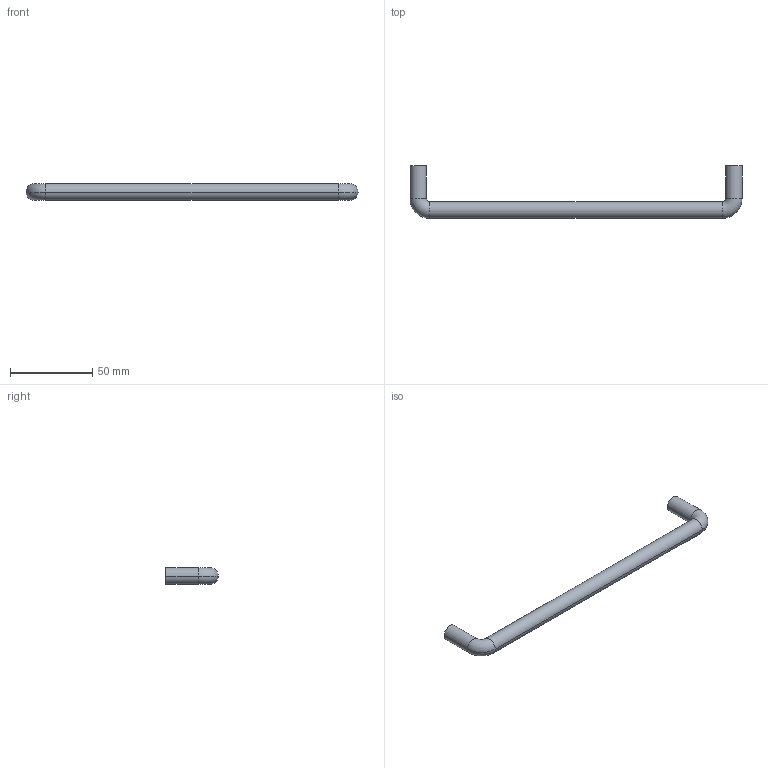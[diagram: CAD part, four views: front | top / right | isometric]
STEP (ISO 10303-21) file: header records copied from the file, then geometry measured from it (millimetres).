
FILE_DESCRIPTION( ( '' ), '1' );
FILE_NAME( 'C:/Documents and Settings/Sachin/Desktop/Sheet 10_1/stp/9070572.stp', '2013-10-22T08:31:09', ( '' ), ( '' ), ' ', ' ', ' ' );
FILE_SCHEMA( ( 'CONFIG_CONTROL_DESIGN' ) );
Length unit declared in the file: millimetre
Products named in the file (1): 1
Bounding box: 202 x 32 x 10 mm (x, y, z)
Volume: 18672.9 mm3; surface area: 7872.6 mm2
Topology: 1 solids, 1 shells, 18 faces, 34 edges, 20 vertices
Faces by surface type: cylinder 10, torus 4, plane 4
Entity records: 502 total; most frequent: DIRECTION 96, CARTESIAN_POINT 73, ORIENTED_EDGE 68, AXIS2_PLACEMENT_3D 43, EDGE_CURVE 34, CIRCLE 24, EDGE_LOOP 20, VERTEX_POINT 20
